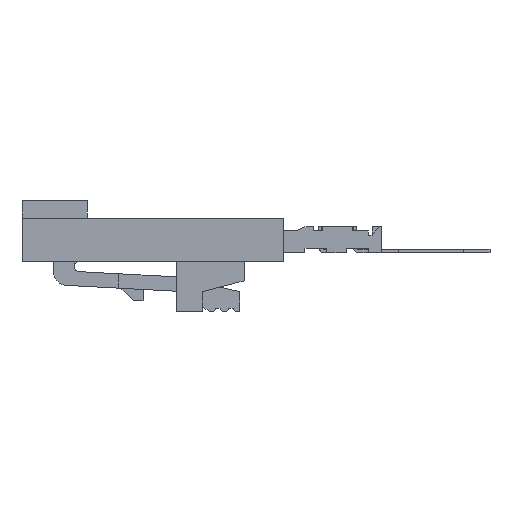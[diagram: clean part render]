
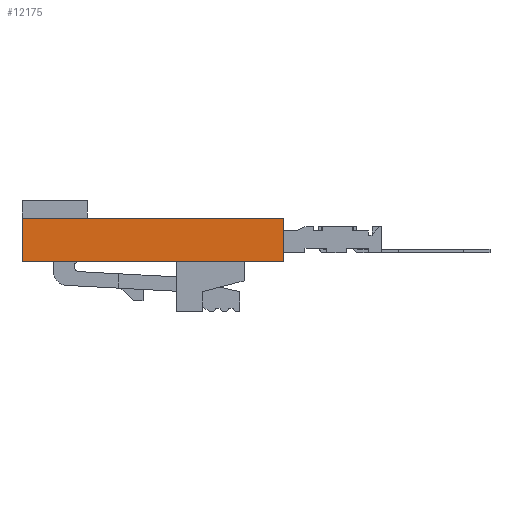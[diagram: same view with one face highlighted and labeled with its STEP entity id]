
A CAD part, left-side view. The second image highlights one B-rep face of the part: STEP entity #12175.
In plain terms, the highlighted planar face has unit normal (-1, 0, 0).
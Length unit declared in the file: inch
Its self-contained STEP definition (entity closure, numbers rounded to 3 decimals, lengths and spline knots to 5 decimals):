
#1=DIRECTION('',(0.,0.,1.));
#2=VECTOR('',#1,0.099);
#3=CARTESIAN_POINT('',(-0.2995,-0.3,-0.0495));
#4=LINE('',#3,#2);
#161=DIRECTION('',(0.,1.,0.));
#162=VECTOR('',#161,0.6);
#163=CARTESIAN_POINT('',(-0.2995,-0.3,-0.0495));
#164=LINE('',#163,#162);
#421=DIRECTION('',(0.,1.,0.));
#422=VECTOR('',#421,0.6);
#423=CARTESIAN_POINT('',(-0.2995,-0.3,0.0495));
#424=LINE('',#423,#422);
#889=DIRECTION('',(0.,0.,1.));
#890=VECTOR('',#889,0.099);
#891=CARTESIAN_POINT('',(-0.2995,0.3,-0.0495));
#892=LINE('',#891,#890);
#9121=CARTESIAN_POINT('',(-0.2995,-0.3,-0.0495));
#9122=CARTESIAN_POINT('',(-0.2995,-0.3,0.0495));
#9123=VERTEX_POINT('',#9121);
#9124=VERTEX_POINT('',#9122);
#9129=CARTESIAN_POINT('',(-0.2995,0.3,-0.0495));
#9130=CARTESIAN_POINT('',(-0.2995,0.3,0.0495));
#9131=VERTEX_POINT('',#9129);
#9132=VERTEX_POINT('',#9130);
#12161=CARTESIAN_POINT('',(-0.2995,-0.3,-0.0495));
#12162=DIRECTION('',(-1.,0.,0.));
#12163=DIRECTION('',(0.,0.,1.));
#12164=AXIS2_PLACEMENT_3D('',#12161,#12162,#12163);
#12165=PLANE('',#12164);
#12166=ORIENTED_EDGE('',*,*,#12042,.F.);
#12168=ORIENTED_EDGE('',*,*,#12167,.T.);
#12170=ORIENTED_EDGE('',*,*,#12169,.T.);
#12172=ORIENTED_EDGE('',*,*,#12171,.F.);
#12173=EDGE_LOOP('',(#12166,#12168,#12170,#12172));
#12174=FACE_OUTER_BOUND('',#12173,.F.);
#12175=ADVANCED_FACE('',(#12174),#12165,.T.);
#12042=EDGE_CURVE('',#9123,#9124,#4,.T.);
#12167=EDGE_CURVE('',#9123,#9131,#164,.T.);
#12169=EDGE_CURVE('',#9131,#9132,#892,.T.);
#12171=EDGE_CURVE('',#9124,#9132,#424,.T.);
